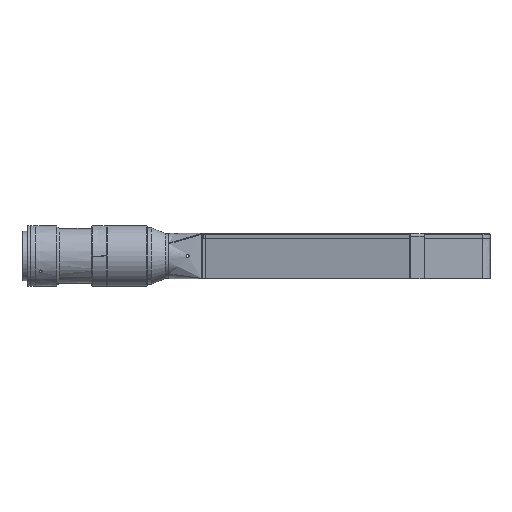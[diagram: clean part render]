
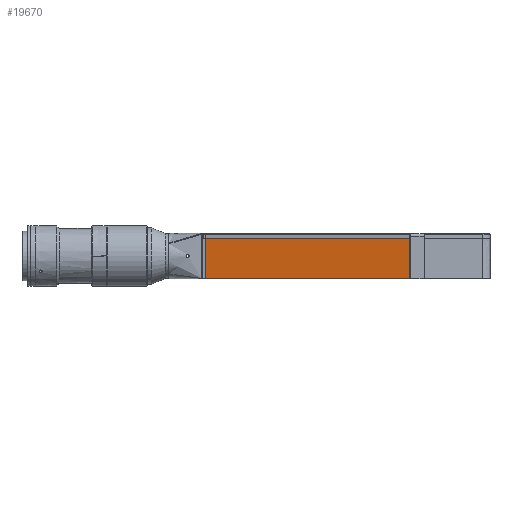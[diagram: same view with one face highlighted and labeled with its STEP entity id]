
A CAD part, left-side view. The second image highlights one B-rep face of the part: STEP entity #19670.
In plain terms, the highlighted free-form (B-spline) face has degree [1, 1] with [2, 2] control points.
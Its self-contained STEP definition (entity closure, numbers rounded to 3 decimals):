
#19670 = ADVANCED_FACE('',(#19671),#19685,.T.);
#19671 = FACE_BOUND('',#19672,.T.);
#19672 = EDGE_LOOP('',(#19673,#19695,#19710,#19725));
#19673 = ORIENTED_EDGE('',*,*,#19674,.T.);
#19674 = EDGE_CURVE('',#19675,#19677,#19679,.T.);
#19675 = VERTEX_POINT('',#19676);
#19676 = CARTESIAN_POINT('',(-56.955,-183.123,-19.25));
#19677 = VERTEX_POINT('',#19678);
#19678 = CARTESIAN_POINT('',(-19.474,-8.909,-19.25));
#19679 = SURFACE_CURVE('',#19680,(#19684),.PCURVE_S1.);
#19680 = LINE('',#19681,#19682);
#19681 = CARTESIAN_POINT('',(-56.955,-183.123,-19.25));
#19682 = VECTOR('',#19683,1.);
#19683 = DIRECTION('',(0.21,0.978,0.));
#19684 = PCURVE('',#19685,#19690);
#19685 = B_SPLINE_SURFACE_WITH_KNOTS('',1,1,(
    (#19686,#19687)
    ,(#19688,#19689
    )),.UNSPECIFIED.,.F.,.F.,.F.,(2,2),(2,2),(0.,1.),(0.,1.),
  .PIECEWISE_BEZIER_KNOTS.);
#19686 = CARTESIAN_POINT('',(-19.474,-8.909,15.));
#19687 = CARTESIAN_POINT('',(-19.474,-8.909,-19.25));
#19688 = CARTESIAN_POINT('',(-56.955,-183.123,15.));
#19689 = CARTESIAN_POINT('',(-56.955,-183.123,-19.25));
#19690 = DEFINITIONAL_REPRESENTATION('',(#19691),#19694);
#19691 = B_SPLINE_CURVE_WITH_KNOTS('',1,(#19692,#19693),.UNSPECIFIED.,
  .F.,.F.,(2,2),(0.,178.201),.PIECEWISE_BEZIER_KNOTS.);
#19692 = CARTESIAN_POINT('',(1.,1.));
#19693 = CARTESIAN_POINT('',(0.,1.));
#19694 = ( GEOMETRIC_REPRESENTATION_CONTEXT(2) 
PARAMETRIC_REPRESENTATION_CONTEXT() REPRESENTATION_CONTEXT('',''
  ) );
#19695 = ORIENTED_EDGE('',*,*,#19696,.T.);
#19696 = EDGE_CURVE('',#19677,#19697,#19699,.T.);
#19697 = VERTEX_POINT('',#19698);
#19698 = CARTESIAN_POINT('',(-19.474,-8.909,15.));
#19699 = SURFACE_CURVE('',#19700,(#19704),.PCURVE_S1.);
#19700 = LINE('',#19701,#19702);
#19701 = CARTESIAN_POINT('',(-19.474,-8.909,-19.25));
#19702 = VECTOR('',#19703,1.);
#19703 = DIRECTION('',(0.,0.,1.));
#19704 = PCURVE('',#19685,#19705);
#19705 = DEFINITIONAL_REPRESENTATION('',(#19706),#19709);
#19706 = B_SPLINE_CURVE_WITH_KNOTS('',1,(#19707,#19708),.UNSPECIFIED.,
  .F.,.F.,(2,2),(0.,34.25),.PIECEWISE_BEZIER_KNOTS.);
#19707 = CARTESIAN_POINT('',(0.,1.));
#19708 = CARTESIAN_POINT('',(0.,0.));
#19709 = ( GEOMETRIC_REPRESENTATION_CONTEXT(2) 
PARAMETRIC_REPRESENTATION_CONTEXT() REPRESENTATION_CONTEXT('',''
  ) );
#19710 = ORIENTED_EDGE('',*,*,#19711,.T.);
#19711 = EDGE_CURVE('',#19697,#19712,#19714,.T.);
#19712 = VERTEX_POINT('',#19713);
#19713 = CARTESIAN_POINT('',(-56.955,-183.123,15.));
#19714 = SURFACE_CURVE('',#19715,(#19719),.PCURVE_S1.);
#19715 = LINE('',#19716,#19717);
#19716 = CARTESIAN_POINT('',(-19.474,-8.909,15.));
#19717 = VECTOR('',#19718,1.);
#19718 = DIRECTION('',(-0.21,-0.978,0.));
#19719 = PCURVE('',#19685,#19720);
#19720 = DEFINITIONAL_REPRESENTATION('',(#19721),#19724);
#19721 = B_SPLINE_CURVE_WITH_KNOTS('',1,(#19722,#19723),.UNSPECIFIED.,
  .F.,.F.,(2,2),(0.,178.201),.PIECEWISE_BEZIER_KNOTS.);
#19722 = CARTESIAN_POINT('',(0.,0.));
#19723 = CARTESIAN_POINT('',(1.,0.));
#19724 = ( GEOMETRIC_REPRESENTATION_CONTEXT(2) 
PARAMETRIC_REPRESENTATION_CONTEXT() REPRESENTATION_CONTEXT('',''
  ) );
#19725 = ORIENTED_EDGE('',*,*,#19726,.T.);
#19726 = EDGE_CURVE('',#19712,#19675,#19727,.T.);
#19727 = SURFACE_CURVE('',#19728,(#19732),.PCURVE_S1.);
#19728 = LINE('',#19729,#19730);
#19729 = CARTESIAN_POINT('',(-56.955,-183.123,15.));
#19730 = VECTOR('',#19731,1.);
#19731 = DIRECTION('',(0.,0.,-1.));
#19732 = PCURVE('',#19685,#19733);
#19733 = DEFINITIONAL_REPRESENTATION('',(#19734),#19737);
#19734 = B_SPLINE_CURVE_WITH_KNOTS('',1,(#19735,#19736),.UNSPECIFIED.,
  .F.,.F.,(2,2),(0.,34.25),.PIECEWISE_BEZIER_KNOTS.);
#19735 = CARTESIAN_POINT('',(1.,0.));
#19736 = CARTESIAN_POINT('',(1.,1.));
#19737 = ( GEOMETRIC_REPRESENTATION_CONTEXT(2) 
PARAMETRIC_REPRESENTATION_CONTEXT() REPRESENTATION_CONTEXT('',''
  ) );
